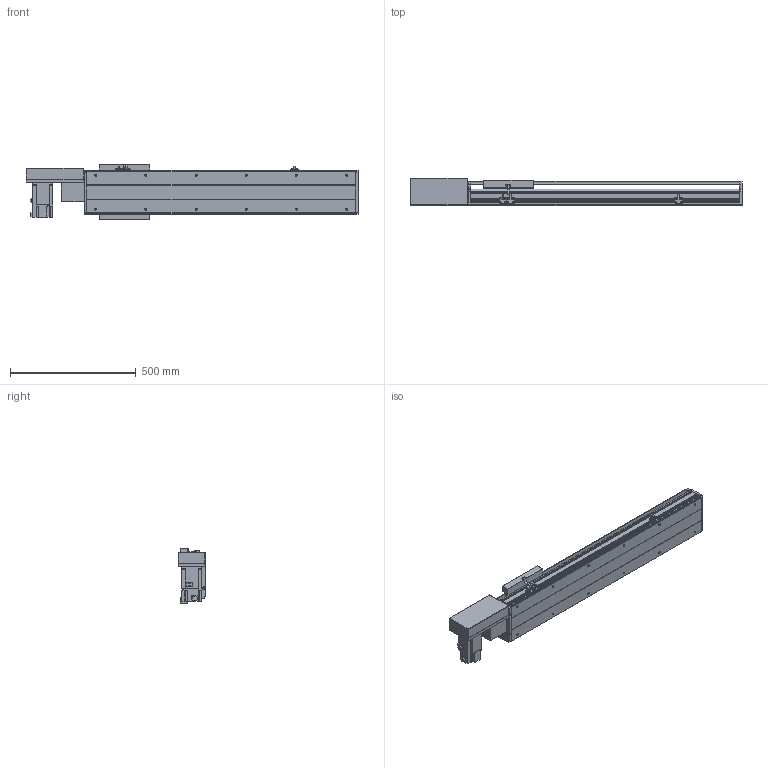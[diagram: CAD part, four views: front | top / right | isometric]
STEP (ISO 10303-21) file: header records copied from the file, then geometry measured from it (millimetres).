
FILE_DESCRIPTION(/* description */ ('STEP AP214'),/* implementation_level */ '2;1');
FILE_NAME(/* name */ 'PBS200-P40-S700-R-T75-C1-N(0)',/* time_stamp */ '2022-06-11T08:04:07+02:00',/* author */ ('License CC BY-ND 4.0'),/* organization */ ('CADENAS'),/* preprocessor_version */ 'ST-DEVELOPER v18.102',/* originating_system */ 'PARTsolutions',/* authorisation */ ' ');
FILE_SCHEMA (('AUTOMOTIVE_DESIGN {1 0 10303 214 3 1 1}'));
Length unit declared in the file: millimetre
Products named in the file (7): PBS200-P40-S700-R-T75-C1-N(0); PBS200_sensor; PBS200_plant; PBS200_sliser; T75-p1; PBS200T-R_motors; PBS200-S700()_body
Assembly tree (8 placements, depth 2):
  PBS200-P40-S700-R-T75-C1-N(0)
    PBS200_sensor  x3
    PBS200_plant
    PBS200_sliser
    T75-p1
    PBS200T-R_motors
    PBS200-S700()_body
Bounding box: 1322 x 109 x 221 mm (x, y, z)
Volume: 9364336.4 mm3; surface area: 1523968.6 mm2
Topology: 8 solids, 8 shells, 908 faces, 2354 edges, 1536 vertices
Faces by surface type: plane 570, cylinder 294, cone 44
Full cylindrical faces by diameter (mm): 2.459 x6, 3.242 x4, 4.5 x6, 4.917 x4, 5 x6, 6 x7, 6.6 x8, 6.647 x16, 8 x6, 10 x4, 12 x8, 38 x2, 40 x1, 70 x1
Entity records: 24341 total; most frequent: DIRECTION 4279, CARTESIAN_POINT 4156, ORIENTED_EDGE 3958, EDGE_CURVE 1979, AXIS2_PLACEMENT_3D 1483, VERTEX_POINT 1360, LINE 1313, VECTOR 1313
